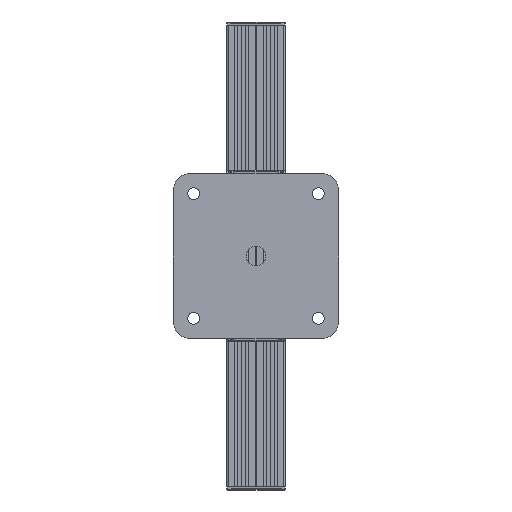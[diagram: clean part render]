
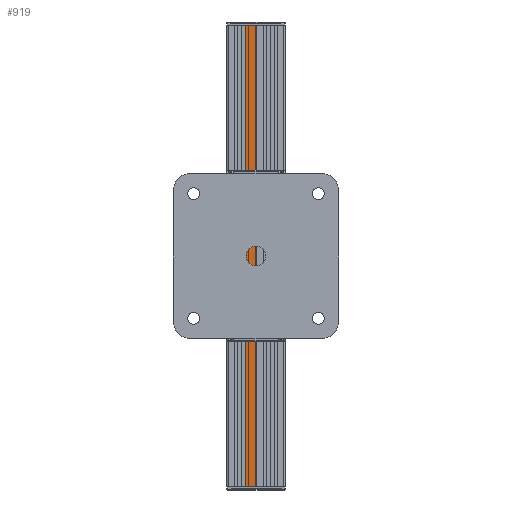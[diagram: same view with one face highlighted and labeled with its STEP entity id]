
A CAD part, front view. The second image highlights one B-rep face of the part: STEP entity #919.
In plain terms, the highlighted planar face has unit normal (0, -1, 0).
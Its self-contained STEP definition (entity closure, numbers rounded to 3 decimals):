
#909 = ORIENTED_EDGE ( 'NONE', *, *, #924, .T. ) ;
#910 = EDGE_CURVE ( 'NONE', #923, #912, #11132, .T. ) ;
#911 = ORIENTED_EDGE ( 'NONE', *, *, #910, .F. ) ;
#912 = VERTEX_POINT ( 'NONE', #11128 ) ;
#913 = EDGE_CURVE ( 'NONE', #912, #915, #5699, .T. ) ;
#914 = ORIENTED_EDGE ( 'NONE', *, *, #913, .F. ) ;
#915 = VERTEX_POINT ( 'NONE', #11213 ) ;
#916 = EDGE_CURVE ( 'NONE', #926, #915, #11211, .T. ) ;
#917 = ORIENTED_EDGE ( 'NONE', *, *, #916, .T. ) ;
#918 = EDGE_LOOP ( 'NONE', ( #917, #914, #911, #909 ) ) ;
#919 = ADVANCED_FACE ( 'NONE', ( #11207 ), #11190, .F. ) ;
#923 = VERTEX_POINT ( 'NONE', #11177 ) ;
#924 = EDGE_CURVE ( 'NONE', #923, #926, #11176, .T. ) ;
#926 = VERTEX_POINT ( 'NONE', #11172 ) ;
#5699 = LINE ( 'NONE', #5888, #11215 ) ;
#5888 = CARTESIAN_POINT ( 'NONE',  ( -0.3, 800., 349.5 ) ) ;
#11128 = CARTESIAN_POINT ( 'NONE',  ( -0.3, 800., 349.5 ) ) ;
#11129 = DIRECTION ( 'NONE',  ( 1., 0., 0. ) ) ;
#11130 = VECTOR ( 'NONE', #11129, 1000. ) ;
#11131 = CARTESIAN_POINT ( 'NONE',  ( -16., 800., 349.5 ) ) ;
#11132 = LINE ( 'NONE', #11131, #11130 ) ;
#11172 = CARTESIAN_POINT ( 'NONE',  ( -16., 800., -349.5 ) ) ;
#11173 = DIRECTION ( 'NONE',  ( 0., 0., -1. ) ) ;
#11174 = VECTOR ( 'NONE', #11173, 1000. ) ;
#11175 = CARTESIAN_POINT ( 'NONE',  ( -16., 800., 349.5 ) ) ;
#11176 = LINE ( 'NONE', #11175, #11174 ) ;
#11177 = CARTESIAN_POINT ( 'NONE',  ( -16., 800., 349.5 ) ) ;
#11185 = DIRECTION ( 'NONE',  ( -1., 0., 0. ) ) ;
#11187 = DIRECTION ( 'NONE',  ( 0., 1., 0. ) ) ;
#11188 = CARTESIAN_POINT ( 'NONE',  ( -16., 800., 349.5 ) ) ;
#11189 = AXIS2_PLACEMENT_3D ( 'NONE', #11188, #11187, #11185 ) ;
#11190 = PLANE ( 'NONE',  #11189 ) ;
#11207 = FACE_OUTER_BOUND ( 'NONE', #918, .T. ) ;
#11208 = DIRECTION ( 'NONE',  ( 1., 0., 0. ) ) ;
#11209 = VECTOR ( 'NONE', #11208, 1000. ) ;
#11210 = CARTESIAN_POINT ( 'NONE',  ( -16., 800., -349.5 ) ) ;
#11211 = LINE ( 'NONE', #11210, #11209 ) ;
#11213 = CARTESIAN_POINT ( 'NONE',  ( -0.3, 800., -349.5 ) ) ;
#11214 = DIRECTION ( 'NONE',  ( 0., 0., -1. ) ) ;
#11215 = VECTOR ( 'NONE', #11214, 1000. ) ;
